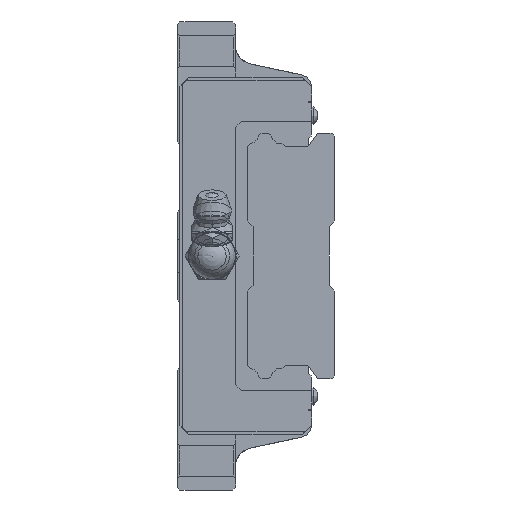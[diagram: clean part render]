
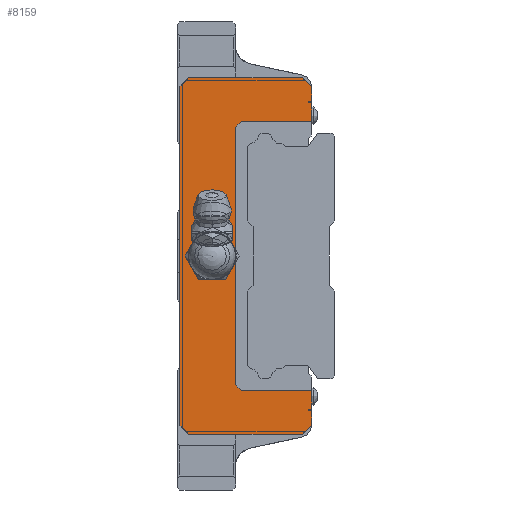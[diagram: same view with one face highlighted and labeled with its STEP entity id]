
A CAD part, left-side view. The second image highlights one B-rep face of the part: STEP entity #8159.
In plain terms, the highlighted planar face has unit normal (-1, 0, 0).
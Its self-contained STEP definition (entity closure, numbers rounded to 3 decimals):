
#120=LINE('',#12717,#564);
#135=LINE('',#12748,#579);
#142=LINE('',#12762,#586);
#146=LINE('',#12769,#590);
#154=LINE('',#12786,#598);
#157=LINE('',#12791,#601);
#176=LINE('',#12831,#620);
#177=LINE('',#12834,#621);
#178=LINE('',#12835,#622);
#179=LINE('',#12836,#623);
#180=LINE('',#12838,#624);
#181=LINE('',#12840,#625);
#182=LINE('',#12842,#626);
#183=LINE('',#12844,#627);
#184=LINE('',#12846,#628);
#185=LINE('',#12848,#629);
#186=LINE('',#12850,#630);
#187=LINE('',#12852,#631);
#188=LINE('',#12854,#632);
#189=LINE('',#12856,#633);
#190=LINE('',#12858,#634);
#191=LINE('',#12860,#635);
#564=VECTOR('',#9982,1000.);
#579=VECTOR('',#9999,1000.);
#586=VECTOR('',#10010,1000.);
#590=VECTOR('',#10016,1000.);
#598=VECTOR('',#10026,1000.);
#601=VECTOR('',#10031,1000.);
#620=VECTOR('',#10060,1000.);
#621=VECTOR('',#10061,1000.);
#622=VECTOR('',#10062,1000.);
#623=VECTOR('',#10063,1000.);
#624=VECTOR('',#10064,1000.);
#625=VECTOR('',#10065,1000.);
#626=VECTOR('',#10066,1000.);
#627=VECTOR('',#10067,1000.);
#628=VECTOR('',#10068,1000.);
#629=VECTOR('',#10069,1000.);
#630=VECTOR('',#10070,1000.);
#631=VECTOR('',#10071,1000.);
#632=VECTOR('',#10072,1000.);
#633=VECTOR('',#10073,1000.);
#634=VECTOR('',#10074,1000.);
#635=VECTOR('',#10075,1000.);
#973=PLANE('',#8769);
#1481=CIRCLE('',#8770,3.);
#2251=ORIENTED_EDGE('',*,*,#4159,.T.);
#2252=ORIENTED_EDGE('',*,*,#4160,.F.);
#2253=ORIENTED_EDGE('',*,*,#4161,.F.);
#2254=ORIENTED_EDGE('',*,*,#4128,.F.);
#2255=ORIENTED_EDGE('',*,*,#4124,.F.);
#2256=ORIENTED_EDGE('',*,*,#4117,.F.);
#2257=ORIENTED_EDGE('',*,*,#4162,.F.);
#2258=ORIENTED_EDGE('',*,*,#4102,.F.);
#2259=ORIENTED_EDGE('',*,*,#4139,.F.);
#2260=ORIENTED_EDGE('',*,*,#4136,.F.);
#2261=ORIENTED_EDGE('',*,*,#4163,.F.);
#2262=ORIENTED_EDGE('',*,*,#4164,.F.);
#2263=ORIENTED_EDGE('',*,*,#4165,.F.);
#2264=ORIENTED_EDGE('',*,*,#4166,.F.);
#2265=ORIENTED_EDGE('',*,*,#4167,.F.);
#2266=ORIENTED_EDGE('',*,*,#4168,.T.);
#2267=ORIENTED_EDGE('',*,*,#4169,.T.);
#2268=ORIENTED_EDGE('',*,*,#4170,.T.);
#2269=ORIENTED_EDGE('',*,*,#4171,.T.);
#2270=ORIENTED_EDGE('',*,*,#4172,.T.);
#2271=ORIENTED_EDGE('',*,*,#4173,.F.);
#2272=ORIENTED_EDGE('',*,*,#4174,.F.);
#2273=ORIENTED_EDGE('',*,*,#4175,.F.);
#4102=EDGE_CURVE('',#5073,#5074,#120,.T.);
#4117=EDGE_CURVE('',#5088,#5089,#135,.T.);
#4124=EDGE_CURVE('',#5089,#5094,#142,.T.);
#4128=EDGE_CURVE('',#5094,#5096,#146,.T.);
#4136=EDGE_CURVE('',#5103,#5104,#154,.T.);
#4139=EDGE_CURVE('',#5104,#5073,#157,.T.);
#4159=EDGE_CURVE('',#5120,#5120,#1481,.T.);
#4160=EDGE_CURVE('',#5121,#5122,#176,.T.);
#4161=EDGE_CURVE('',#5096,#5121,#177,.T.);
#4162=EDGE_CURVE('',#5074,#5088,#178,.T.);
#4163=EDGE_CURVE('',#5123,#5103,#179,.T.);
#4164=EDGE_CURVE('',#5124,#5123,#180,.T.);
#4165=EDGE_CURVE('',#5125,#5124,#181,.T.);
#4166=EDGE_CURVE('',#5126,#5125,#182,.T.);
#4167=EDGE_CURVE('',#5127,#5126,#183,.T.);
#4168=EDGE_CURVE('',#5127,#5128,#184,.T.);
#4169=EDGE_CURVE('',#5128,#5129,#185,.T.);
#4170=EDGE_CURVE('',#5129,#5130,#186,.T.);
#4171=EDGE_CURVE('',#5130,#5131,#187,.T.);
#4172=EDGE_CURVE('',#5131,#5132,#188,.T.);
#4173=EDGE_CURVE('',#5133,#5132,#189,.T.);
#4174=EDGE_CURVE('',#5134,#5133,#190,.T.);
#4175=EDGE_CURVE('',#5122,#5134,#191,.T.);
#5073=VERTEX_POINT('',#12716);
#5074=VERTEX_POINT('',#12718);
#5088=VERTEX_POINT('',#12747);
#5089=VERTEX_POINT('',#12749);
#5094=VERTEX_POINT('',#12763);
#5096=VERTEX_POINT('',#12770);
#5103=VERTEX_POINT('',#12785);
#5104=VERTEX_POINT('',#12787);
#5120=VERTEX_POINT('',#12830);
#5121=VERTEX_POINT('',#12832);
#5122=VERTEX_POINT('',#12833);
#5123=VERTEX_POINT('',#12837);
#5124=VERTEX_POINT('',#12839);
#5125=VERTEX_POINT('',#12841);
#5126=VERTEX_POINT('',#12843);
#5127=VERTEX_POINT('',#12845);
#5128=VERTEX_POINT('',#12847);
#5129=VERTEX_POINT('',#12849);
#5130=VERTEX_POINT('',#12851);
#5131=VERTEX_POINT('',#12853);
#5132=VERTEX_POINT('',#12855);
#5133=VERTEX_POINT('',#12857);
#5134=VERTEX_POINT('',#12859);
#5910=EDGE_LOOP('',(#2251));
#5911=EDGE_LOOP('',(#2252,#2253,#2254,#2255,#2256,#2257,#2258,#2259,#2260,
#2261,#2262,#2263,#2264,#2265,#2266,#2267,#2268,#2269,#2270,#2271,#2272,
#2273));
#7027=FACE_BOUND('',#5910,.T.);
#7028=FACE_BOUND('',#5911,.T.);
#8159=ADVANCED_FACE('',(#7027,#7028),#973,.F.);
#8769=AXIS2_PLACEMENT_3D('',#12828,#10056,#10057);
#8770=AXIS2_PLACEMENT_3D('',#12829,#10058,#10059);
#9982=DIRECTION('',(0.,0.707,0.707));
#9999=DIRECTION('',(0.,-0.707,0.707));
#10010=DIRECTION('',(0.,-1.,0.));
#10016=DIRECTION('',(0.,-0.707,-0.707));
#10026=DIRECTION('',(0.,0.707,-0.707));
#10031=DIRECTION('',(0.,1.,0.));
#10056=DIRECTION('',(1.,0.,0.));
#10057=DIRECTION('',(0.,0.,-1.));
#10058=DIRECTION('',(1.,0.,0.));
#10059=DIRECTION('',(0.,0.,-1.));
#10060=DIRECTION('',(0.,1.,0.));
#10061=DIRECTION('',(0.,0.,-1.));
#10062=DIRECTION('',(0.,0.,1.));
#10063=DIRECTION('',(0.,0.,-1.));
#10064=DIRECTION('',(0.,-1.,0.));
#10065=DIRECTION('',(0.,0.,-1.));
#10066=DIRECTION('',(0.,1.,0.));
#10067=DIRECTION('',(0.,0.,-1.));
#10068=DIRECTION('',(0.,1.,0.));
#10069=DIRECTION('',(0.,0.707,0.707));
#10070=DIRECTION('',(0.,0.,1.));
#10071=DIRECTION('',(0.,-0.707,0.707));
#10072=DIRECTION('',(0.,-1.,0.));
#10073=DIRECTION('',(0.,0.,-1.));
#10074=DIRECTION('',(0.,-1.,0.));
#10075=DIRECTION('',(0.,0.,-1.));
#12716=CARTESIAN_POINT('',(-34.9,22.,-30.5));
#12717=CARTESIAN_POINT('',(-34.9,22.,-30.5));
#12718=CARTESIAN_POINT('',(-34.9,23.5,-29.));
#12747=CARTESIAN_POINT('',(-34.9,23.5,29.));
#12748=CARTESIAN_POINT('',(-34.9,23.5,29.));
#12749=CARTESIAN_POINT('',(-34.9,22.,30.5));
#12762=CARTESIAN_POINT('',(-34.9,24.,30.5));
#12763=CARTESIAN_POINT('',(-34.9,2.6,30.5));
#12769=CARTESIAN_POINT('',(-34.9,2.6,30.5));
#12770=CARTESIAN_POINT('',(-34.9,1.,28.9));
#12785=CARTESIAN_POINT('',(-34.9,1.,-28.9));
#12786=CARTESIAN_POINT('',(-34.9,1.,-28.9));
#12787=CARTESIAN_POINT('',(-34.9,2.6,-30.5));
#12791=CARTESIAN_POINT('',(-34.9,0.,-30.5));
#12828=CARTESIAN_POINT('',(-34.9,0.,0.));
#12829=CARTESIAN_POINT('',(-34.9,18.,0.));
#12830=CARTESIAN_POINT('',(-34.9,18.,-3.));
#12831=CARTESIAN_POINT('',(-34.9,0.,26.485));
#12832=CARTESIAN_POINT('',(-34.9,1.,26.485));
#12833=CARTESIAN_POINT('',(-34.9,1.6,26.485));
#12834=CARTESIAN_POINT('',(-34.9,1.,28.978));
#12835=CARTESIAN_POINT('',(-34.9,23.5,8.));
#12836=CARTESIAN_POINT('',(-34.9,1.,28.978));
#12837=CARTESIAN_POINT('',(-34.9,1.,-26.485));
#12838=CARTESIAN_POINT('',(-34.9,0.,-26.485));
#12839=CARTESIAN_POINT('',(-34.9,1.6,-26.485));
#12840=CARTESIAN_POINT('',(-34.9,1.6,0.));
#12841=CARTESIAN_POINT('',(-34.9,1.6,-26.2));
#12842=CARTESIAN_POINT('',(-34.9,0.,-26.2));
#12843=CARTESIAN_POINT('',(-34.9,1.,-26.2));
#12844=CARTESIAN_POINT('',(-34.9,1.,28.978));
#12845=CARTESIAN_POINT('',(-34.9,1.,-23.));
#12846=CARTESIAN_POINT('',(-34.9,1.,-23.));
#12847=CARTESIAN_POINT('',(-34.9,13.,-23.));
#12848=CARTESIAN_POINT('',(-34.9,13.,-23.));
#12849=CARTESIAN_POINT('',(-34.9,14.,-22.));
#12850=CARTESIAN_POINT('',(-34.9,14.,-22.));
#12851=CARTESIAN_POINT('',(-34.9,14.,22.));
#12852=CARTESIAN_POINT('',(-34.9,14.,22.));
#12853=CARTESIAN_POINT('',(-34.9,13.,23.));
#12854=CARTESIAN_POINT('',(-34.9,13.,23.));
#12855=CARTESIAN_POINT('',(-34.9,1.,23.));
#12856=CARTESIAN_POINT('',(-34.9,1.,28.978));
#12857=CARTESIAN_POINT('',(-34.9,1.,26.2));
#12858=CARTESIAN_POINT('',(-34.9,0.,26.2));
#12859=CARTESIAN_POINT('',(-34.9,1.6,26.2));
#12860=CARTESIAN_POINT('',(-34.9,1.6,0.));
